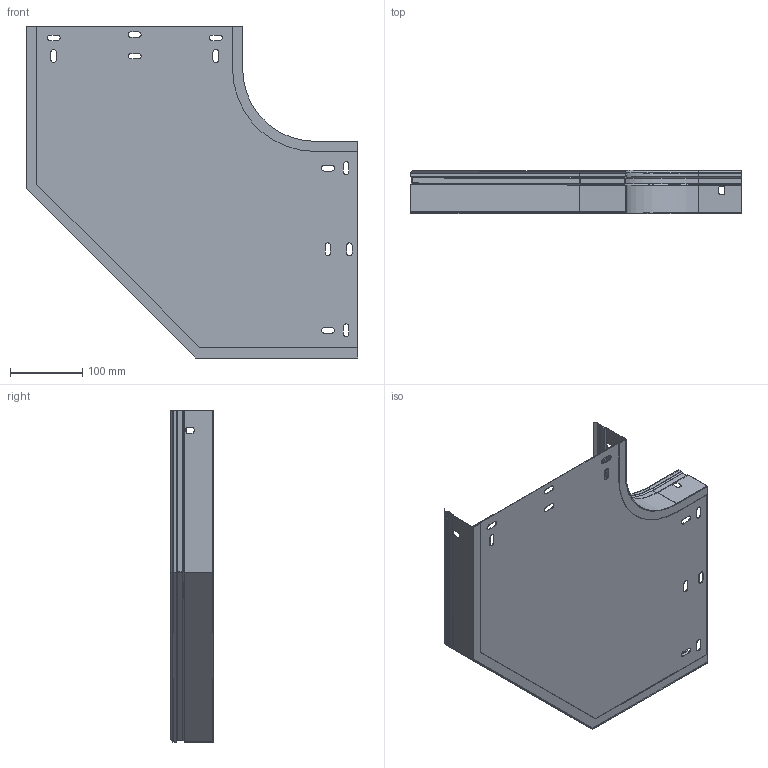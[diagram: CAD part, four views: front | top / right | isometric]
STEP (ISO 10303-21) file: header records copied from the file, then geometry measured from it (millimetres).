
FILE_DESCRIPTION (( 'STEP AP203' ), '1' );
FILE_NAME ('ERE_CPERC 300x60.step', '2023-07-27T18:48:07', ( '' ), ( '' ), 'SwSTEP 2.0', 'SolidWorks 2022', '' );
FILE_SCHEMA (( 'CONFIG_CONTROL_DESIGN' ));
Length unit declared in the file: millimetre
Products named in the file (4): ERE_BASE CP_300; ERE_LATERAL EXT CP_300 x 60; ERE_LATERAL INT CP_60; ERE_CPERC 300x60
Assembly tree (3 placements, depth 2):
  ERE_CPERC 300x60
    ERE_BASE CP_300
    ERE_LATERAL INT CP_60
    ERE_LATERAL EXT CP_300 x 60
Bounding box: 460.76 x 60 x 460.76 mm (x, y, z)
Volume: 238780.4 mm3; surface area: 482317.1 mm2
Topology: 3 solids, 3 shells, 172 faces, 450 edges, 284 vertices
Faces by surface type: plane 119, cylinder 46, cone 7
Entity records: 5682 total; most frequent: CARTESIAN_POINT 912, ORIENTED_EDGE 900, DIRECTION 900, EDGE_CURVE 450, LINE 356, VECTOR 356, VERTEX_POINT 284, AXIS2_PLACEMENT_3D 272
